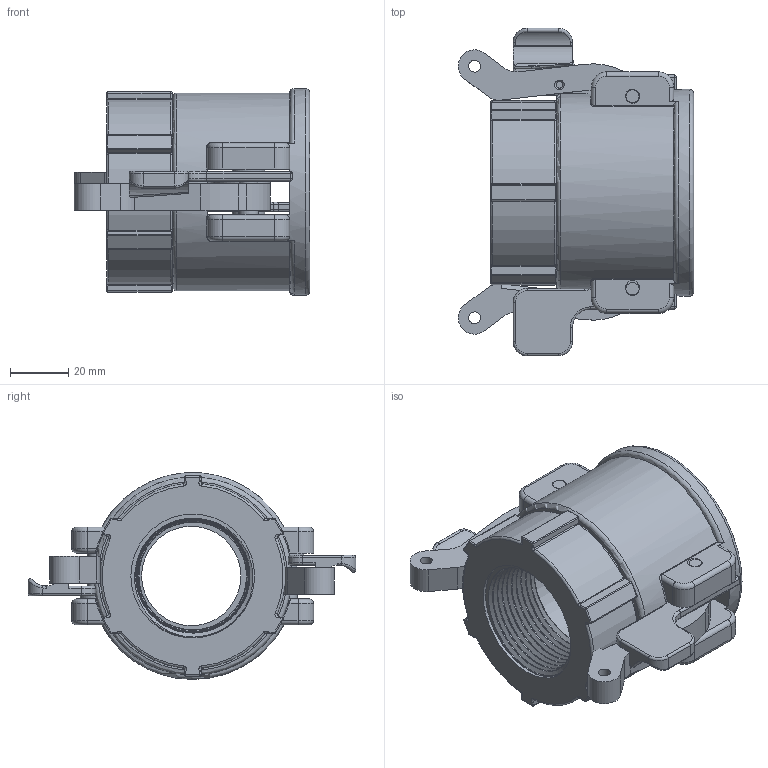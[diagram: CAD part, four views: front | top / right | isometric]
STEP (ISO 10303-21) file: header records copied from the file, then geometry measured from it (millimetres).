
FILE_DESCRIPTION(/* description */ ('Alibre Inc.'),/* implementation_level */ '2;1');
FILE_NAME(/* name */ 'export0',/* time_stamp */ '2015-12-30T14:43:16-05:00',/* author */ (''),/* organization */ (''),/* preprocessor_version */ 'ST-DEVELOPER v14',/* originating_system */ 'Alibre',/* authorisation */ '');
FILE_SCHEMA (('CONFIG_CONTROL_DESIGN'));
Length unit declared in the file: centimetre
Products named in the file (6): ID_1; ID_2; ID_3; ID_4
Bounding box: 80.63 x 112.27 x 70.87 mm (x, y, z)
Volume: 142014 mm3; surface area: 51776.5 mm2
Topology: 8 solids, 8 shells, 511 faces, 1255 edges, 730 vertices
Faces by surface type: cylinder 205, plane 137, torus 83, sphere 39, cone 29, bspline 18
Full cylindrical faces by diameter (mm): 4.064 x2, 4.47 x4, 6.35 x4, 6.604 x4, 11.125 x2, 34.036 x1, 36.83 x1, 42.418 x1, 49.53 x1, 54.864 x1, 57.912 x1, 67.818 x1, 70.866 x1
Entity records: 38238 total; most frequent: CARTESIAN_POINT 28726, ORIENTED_EDGE 1874, DIRECTION 1754, EDGE_CURVE 937, AXIS2_PLACEMENT_3D 777, VERTEX_POINT 570, EDGE_LOOP 447, FACE_BOUND 447
